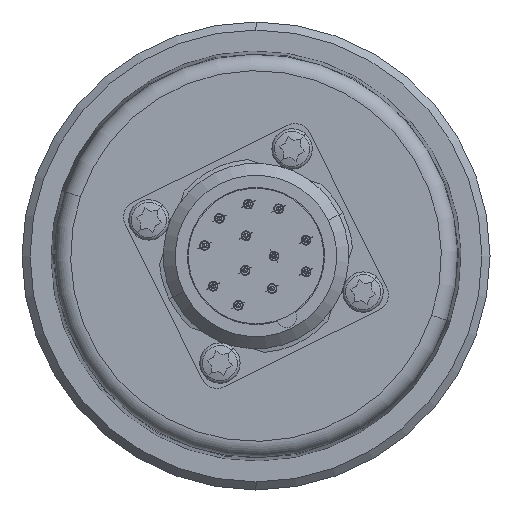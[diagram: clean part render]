
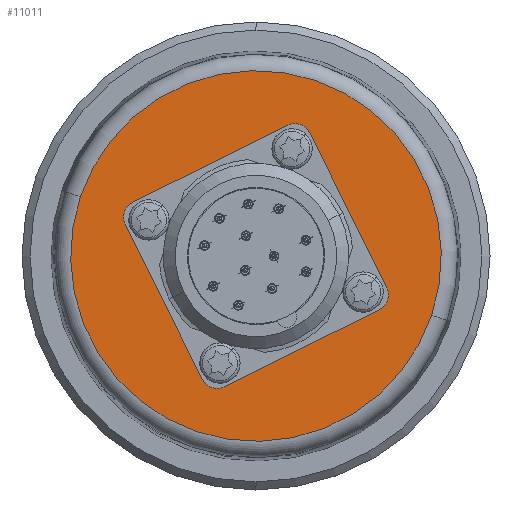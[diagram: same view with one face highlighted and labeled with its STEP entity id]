
A CAD part, left-side view. The second image highlights one B-rep face of the part: STEP entity #11011.
In plain terms, the highlighted planar face has unit normal (-1, 0, 0).
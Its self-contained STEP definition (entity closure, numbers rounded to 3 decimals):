
#8001 = CARTESIAN_POINT ( 'NONE',  ( -21., 21.77, 7.332 ) ) ;
#8002 = DIRECTION ( 'NONE',  ( 0., 0.948, 0.319 ) ) ;
#8003 = DIRECTION ( 'NONE',  ( -1., 0., 0. ) ) ;
#8004 = CARTESIAN_POINT ( 'NONE',  ( -21., 0., 0. ) ) ;
#8005 = AXIS2_PLACEMENT_3D ( 'NONE', #8004, #8003, #8002 ) ;
#8006 = CIRCLE ( 'NONE', #8005, 22.972 ) ;
#8134 = CARTESIAN_POINT ( 'NONE',  ( -21., -21.77, -7.332 ) ) ;
#8353 = CARTESIAN_POINT ( 'NONE',  ( -21., -11.952, -4.026 ) ) ;
#8392 = CARTESIAN_POINT ( 'NONE',  ( -21., -14.584, -4.912 ) ) ;
#8393 = DIRECTION ( 'NONE',  ( 0., 0.948, 0.319 ) ) ;
#8394 = DIRECTION ( 'NONE',  ( 1., 0., 0. ) ) ;
#8395 = AXIS2_PLACEMENT_3D ( 'NONE', #8401, #8394, #8393 ) ;
#8396 = CIRCLE ( 'NONE', #8395, 1.389 ) ;
#8401 = CARTESIAN_POINT ( 'NONE',  ( -21., -13.268, -4.469 ) ) ;
#9071 = EDGE_CURVE ( 'NONE', #9129, #9072, #8006, .T. ) ;
#9072 = VERTEX_POINT ( 'NONE', #8001 ) ;
#9129 = VERTEX_POINT ( 'NONE', #8134 ) ;
#9187 = VERTEX_POINT ( 'NONE', #8353 ) ;
#9191 = EDGE_CURVE ( 'NONE', #9192, #9187, #8396, .T. ) ;
#9192 = VERTEX_POINT ( 'NONE', #8392 ) ;
#9263 = VERTEX_POINT ( 'NONE', #30482 ) ;
#9267 = EDGE_CURVE ( 'NONE', #9268, #9263, #30481, .T. ) ;
#9268 = VERTEX_POINT ( 'NONE', #30476 ) ;
#9288 = VERTEX_POINT ( 'NONE', #30585 ) ;
#9293 = EDGE_CURVE ( 'NONE', #9294, #9288, #30596, .T. ) ;
#9294 = VERTEX_POINT ( 'NONE', #30598 ) ;
#9312 = VERTEX_POINT ( 'NONE', #30691 ) ;
#9315 = EDGE_CURVE ( 'NONE', #9316, #9312, #30690, .T. ) ;
#9316 = VERTEX_POINT ( 'NONE', #30738 ) ;
#10219 = VERTEX_POINT ( 'NONE', #32342 ) ;
#10294 = VERTEX_POINT ( 'NONE', #32562 ) ;
#10299 = EDGE_CURVE ( 'NONE', #10294, #10219, #32597, .T. ) ;
#10846 = ORIENTED_EDGE ( 'NONE', *, *, #10849, .T. ) ;
#10849 = EDGE_CURVE ( 'NONE', #9187, #9192, #35713, .T. ) ;
#10854 = ORIENTED_EDGE ( 'NONE', *, *, #10859, .T. ) ;
#10859 = EDGE_CURVE ( 'NONE', #9072, #9129, #35763, .T. ) ;
#10863 = ORIENTED_EDGE ( 'NONE', *, *, #9071, .T. ) ;
#10868 = EDGE_LOOP ( 'NONE', ( #10873, #10887 ) ) ;
#10873 = ORIENTED_EDGE ( 'NONE', *, *, #10878, .F. ) ;
#10878 = EDGE_CURVE ( 'NONE', #10219, #10294, #35794, .T. ) ;
#10887 = ORIENTED_EDGE ( 'NONE', *, *, #10299, .F. ) ;
#10913 = ORIENTED_EDGE ( 'NONE', *, *, #9293, .T. ) ;
#10915 = ORIENTED_EDGE ( 'NONE', *, *, #10917, .T. ) ;
#10917 = EDGE_CURVE ( 'NONE', #9288, #9294, #35856, .T. ) ;
#10919 = EDGE_LOOP ( 'NONE', ( #10923, #10926 ) ) ;
#10923 = ORIENTED_EDGE ( 'NONE', *, *, #9267, .T. ) ;
#10926 = ORIENTED_EDGE ( 'NONE', *, *, #10928, .T. ) ;
#10928 = EDGE_CURVE ( 'NONE', #9263, #9268, #35884, .T. ) ;
#10930 = EDGE_LOOP ( 'NONE', ( #10935, #10846 ) ) ;
#10935 = ORIENTED_EDGE ( 'NONE', *, *, #9191, .T. ) ;
#10941 = EDGE_LOOP ( 'NONE', ( #10854, #10863 ) ) ;
#11011 = ADVANCED_FACE ( 'NONE', ( #36001, #35988, #35987, #35986, #35985, #35984 ), #36033, .F. ) ;
#11014 = EDGE_LOOP ( 'NONE', ( #11017, #11020 ) ) ;
#11017 = ORIENTED_EDGE ( 'NONE', *, *, #9315, .T. ) ;
#11020 = ORIENTED_EDGE ( 'NONE', *, *, #11023, .T. ) ;
#11023 = EDGE_CURVE ( 'NONE', #9312, #9316, #36059, .T. ) ;
#11025 = EDGE_LOOP ( 'NONE', ( #10913, #10915 ) ) ;
#30476 = CARTESIAN_POINT ( 'NONE',  ( -21., -5.785, 12.825 ) ) ;
#30477 = DIRECTION ( 'NONE',  ( 0., 0.948, 0.319 ) ) ;
#30478 = DIRECTION ( 'NONE',  ( 1., 0., 0. ) ) ;
#30479 = CARTESIAN_POINT ( 'NONE',  ( -21., -4.469, 13.268 ) ) ;
#30480 = AXIS2_PLACEMENT_3D ( 'NONE', #30479, #30478, #30477 ) ;
#30481 = CIRCLE ( 'NONE', #30480, 1.389 ) ;
#30482 = CARTESIAN_POINT ( 'NONE',  ( -21., -3.153, 13.712 ) ) ;
#30585 = CARTESIAN_POINT ( 'NONE',  ( -21., 5.785, -12.825 ) ) ;
#30594 = CARTESIAN_POINT ( 'NONE',  ( -21., 4.469, -13.268 ) ) ;
#30595 = AXIS2_PLACEMENT_3D ( 'NONE', #30594, #30624, #30623 ) ;
#30596 = CIRCLE ( 'NONE', #30595, 1.389 ) ;
#30598 = CARTESIAN_POINT ( 'NONE',  ( -21., 3.153, -13.712 ) ) ;
#30623 = DIRECTION ( 'NONE',  ( 0., 0.948, 0.319 ) ) ;
#30624 = DIRECTION ( 'NONE',  ( 1., 0., 0. ) ) ;
#30689 = AXIS2_PLACEMENT_3D ( 'NONE', #30741, #30740, #30739 ) ;
#30690 = CIRCLE ( 'NONE', #30689, 1.389 ) ;
#30691 = CARTESIAN_POINT ( 'NONE',  ( -21., 14.584, 4.912 ) ) ;
#30738 = CARTESIAN_POINT ( 'NONE',  ( -21., 11.952, 4.026 ) ) ;
#30739 = DIRECTION ( 'NONE',  ( 0., 0.948, 0.319 ) ) ;
#30740 = DIRECTION ( 'NONE',  ( 1., 0., 0. ) ) ;
#30741 = CARTESIAN_POINT ( 'NONE',  ( -21., 13.268, 4.469 ) ) ;
#32342 = CARTESIAN_POINT ( 'NONE',  ( -21., -10.898, -3.671 ) ) ;
#32562 = CARTESIAN_POINT ( 'NONE',  ( -21., 10.898, 3.671 ) ) ;
#32589 = DIRECTION ( 'NONE',  ( 0., -0.948, -0.319 ) ) ;
#32590 = DIRECTION ( 'NONE',  ( -1., 0., 0. ) ) ;
#32591 = CARTESIAN_POINT ( 'NONE',  ( -21., 0., 0. ) ) ;
#32592 = AXIS2_PLACEMENT_3D ( 'NONE', #32591, #32590, #32589 ) ;
#32597 = CIRCLE ( 'NONE', #32592, 11.5 ) ;
#35713 = CIRCLE ( 'NONE', #35767, 1.389 ) ;
#35759 = DIRECTION ( 'NONE',  ( 0., 0.948, 0.319 ) ) ;
#35760 = DIRECTION ( 'NONE',  ( -1., 0., 0. ) ) ;
#35761 = CARTESIAN_POINT ( 'NONE',  ( -21., 0., 0. ) ) ;
#35762 = AXIS2_PLACEMENT_3D ( 'NONE', #35761, #35760, #35759 ) ;
#35763 = CIRCLE ( 'NONE', #35762, 22.972 ) ;
#35764 = DIRECTION ( 'NONE',  ( 0., 0.948, 0.319 ) ) ;
#35765 = DIRECTION ( 'NONE',  ( 1., 0., 0. ) ) ;
#35766 = CARTESIAN_POINT ( 'NONE',  ( -21., -13.268, -4.469 ) ) ;
#35767 = AXIS2_PLACEMENT_3D ( 'NONE', #35766, #35765, #35764 ) ;
#35791 = DIRECTION ( 'NONE',  ( 0., -0.948, -0.319 ) ) ;
#35792 = DIRECTION ( 'NONE',  ( -1., 0., 0. ) ) ;
#35793 = AXIS2_PLACEMENT_3D ( 'NONE', #35799, #35792, #35791 ) ;
#35794 = CIRCLE ( 'NONE', #35793, 11.5 ) ;
#35799 = CARTESIAN_POINT ( 'NONE',  ( -21., 0., 0. ) ) ;
#35848 = DIRECTION ( 'NONE',  ( 0., 0.948, 0.319 ) ) ;
#35849 = DIRECTION ( 'NONE',  ( 1., 0., 0. ) ) ;
#35850 = CARTESIAN_POINT ( 'NONE',  ( -21., 4.469, -13.268 ) ) ;
#35851 = AXIS2_PLACEMENT_3D ( 'NONE', #35850, #35849, #35848 ) ;
#35856 = CIRCLE ( 'NONE', #35851, 1.389 ) ;
#35876 = DIRECTION ( 'NONE',  ( 0., 0.948, 0.319 ) ) ;
#35877 = DIRECTION ( 'NONE',  ( 1., 0., 0. ) ) ;
#35878 = CARTESIAN_POINT ( 'NONE',  ( -21., -4.469, 13.268 ) ) ;
#35879 = AXIS2_PLACEMENT_3D ( 'NONE', #35878, #35877, #35876 ) ;
#35884 = CIRCLE ( 'NONE', #35879, 1.389 ) ;
#35984 = FACE_BOUND ( 'NONE', #10868, .T. ) ;
#35985 = FACE_OUTER_BOUND ( 'NONE', #10941, .T. ) ;
#35986 = FACE_BOUND ( 'NONE', #10930, .T. ) ;
#35987 = FACE_BOUND ( 'NONE', #10919, .T. ) ;
#35988 = FACE_BOUND ( 'NONE', #11025, .T. ) ;
#36001 = FACE_BOUND ( 'NONE', #11014, .T. ) ;
#36027 = DIRECTION ( 'NONE',  ( 0., 0.948, 0.319 ) ) ;
#36028 = DIRECTION ( 'NONE',  ( 1., 0., 0. ) ) ;
#36029 = CARTESIAN_POINT ( 'NONE',  ( -21., 0., 0. ) ) ;
#36030 = AXIS2_PLACEMENT_3D ( 'NONE', #36029, #36028, #36027 ) ;
#36033 = PLANE ( 'NONE',  #36030 ) ;
#36055 = DIRECTION ( 'NONE',  ( 0., 0.948, 0.319 ) ) ;
#36056 = DIRECTION ( 'NONE',  ( 1., 0., 0. ) ) ;
#36057 = CARTESIAN_POINT ( 'NONE',  ( -21., 13.268, 4.469 ) ) ;
#36058 = AXIS2_PLACEMENT_3D ( 'NONE', #36057, #36056, #36055 ) ;
#36059 = CIRCLE ( 'NONE', #36058, 1.389 ) ;
